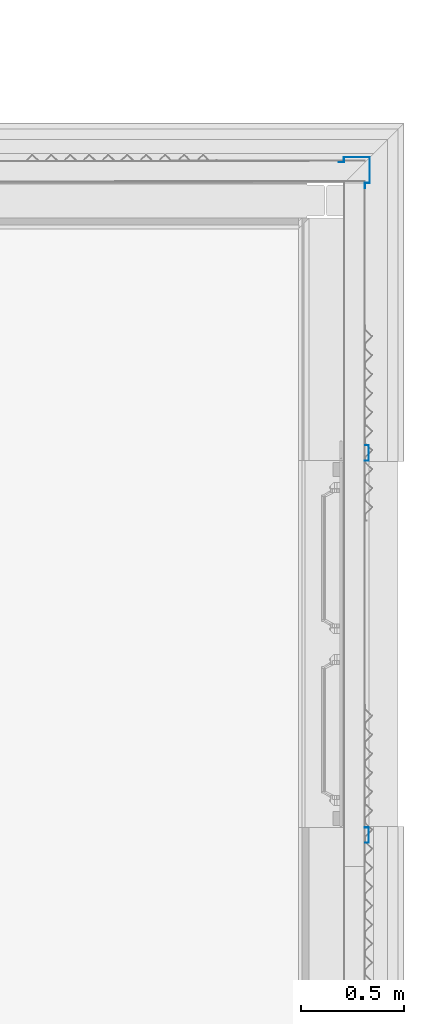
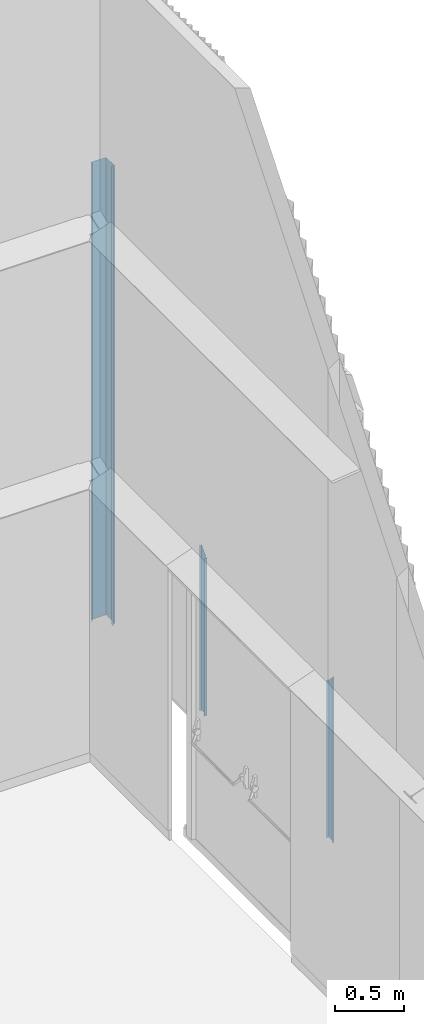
# One storey, part 36 of 338: 3 columns.
"""IFC2X3 building model written with IfcOpenShell, lengths in millimetres."""

from ifc_helpers import new_model, entity, si_unit, converted_unit, derived_unit, money_unit, direction, frame, origin_with_axes, place, context, subcontext, project, spatial, faceted_brep, material, type_object, element, save


model = new_model("IFC2X3")

# Units and contexts
model_context = context("Model", 3, precision=0.01, world=origin_with_axes(), true_north=direction((0.0, 1.0)))
plan_context = context("Plan", 3, precision=0.01, world=origin_with_axes(), true_north=direction((0.0, 1.0)))
body_context = subcontext(model_context, "Body", "Model", "MODEL_VIEW")
ifc_project = project(units=[si_unit("LENGTHUNIT", "METRE", prefix="MILLI"), si_unit("AREAUNIT", "SQUARE_METRE"), si_unit("VOLUMEUNIT", "CUBIC_METRE"), converted_unit("PLANEANGLEUNIT", "DEGREE", entity("IfcPlaneAngleMeasure", 0.0174532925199), si_unit("PLANEANGLEUNIT", "RADIAN"), dimensions=[0, 0, 0, 0, 0, 0, 0]), money_unit("EUR"), converted_unit("TIMEUNIT", "Year", entity("IfcTimeMeasure", 31556926.0), si_unit("TIMEUNIT", "SECOND"), dimensions=[0, 0, 1, 0, 0, 0, 0]), si_unit("MASSUNIT", "GRAM", prefix="KILO"), si_unit("THERMODYNAMICTEMPERATUREUNIT", "DEGREE_CELSIUS"), si_unit("LUMINOUSINTENSITYUNIT", "LUMEN"), si_unit("ENERGYUNIT", "JOULE", prefix="MEGA"), derived_unit("THERMALCONDUCTANCEUNIT", [(si_unit("POWERUNIT", "WATT"), 1), (si_unit("LENGTHUNIT", "METRE"), -1), (si_unit("THERMODYNAMICTEMPERATUREUNIT", "KELVIN"), -1)]), derived_unit("SPECIFICHEATCAPACITYUNIT", [(si_unit("ENERGYUNIT", "JOULE"), 1), (si_unit("MASSUNIT", "GRAM", prefix="KILO"), -1), (si_unit("THERMODYNAMICTEMPERATUREUNIT", "KELVIN"), -1)]), derived_unit("MASSDENSITYUNIT", [(si_unit("MASSUNIT", "GRAM", prefix="KILO"), 1), (si_unit("VOLUMEUNIT", "CUBIC_METRE"), -1)])], contexts=[model_context, plan_context])

# Site, building, storey
site_placement = place(None, origin_with_axes())
site = spatial("IfcSite", under=ifc_project, at=site_placement, Name="Fortuinstraat Woensdrecht", CompositionType="ELEMENT")
building_placement = place(site_placement, origin_with_axes())
building = spatial("IfcBuilding", under=site, at=building_placement, Name="IKC Fortuna", CompositionType="ELEMENT")
storey_placement = place(building_placement, origin_with_axes())
storey = spatial("IfcBuildingStorey", under=building, at=storey_placement, Name="00 begane grond", CompositionType="ELEMENT", Elevation=0.0)

# Columns
ifc_material = material(Name="Metaal - Aluminium")
column_type_1 = type_object("IfcColumnType", Name="41 Zetwerk SW hoek 151 x 151", PredefinedType="COLUMN")
column_1_placement = place(storey_placement, frame((59533.4270571, 35596.296676, 999.0), z_axis=(0.0, 0.0, 1.0), x_axis=(0.0, 1.0, 0.0)))
element("IfcColumn", 1, at=column_1_placement, inside=storey, type_object=column_type_1, material=ifc_material, Name="28_Kolom_omtimmering kolom", ObjectType="COLUMN", context=body_context, shape_type="Brep", body=[
    faceted_brep([(25.0, 101.0, 4060.85690076), (6.54751961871, 101.0, 4060.85690076), (6.54900127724, 100.0, 4060.85690076), (24.0, 100.0, 4060.85690076), (24.0, -24.0, 4060.85690076), (-100.0, -24.0, 4060.85690076), (-100.0, 0.0, 4060.85690076), (-126.0, 0.0, 4060.85690076), (-126.0, -0.999999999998, 4060.85690076), (-101.0, -0.999999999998, 4060.85690076), (-101.0, -25.0, 4060.85690076), (25.0, -25.0, 4060.85690076), (0.999999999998, 101.0, 1.00000000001), (6.54751961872, 101.0, 1.00000000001), (25.0, 101.0, 0.0), (0.999999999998, 101.0, 0.0), (6.54900127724, 100.0, 1.00000000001), (0.0, 100.0, 1.00000000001), (0.0, 100.0, 0.0), (24.0, 100.0, 0.0), (24.0, -24.0, 0.0), (-100.0, -24.0, 0.0), (-100.0, 0.0, 0.0), (-126.0, 0.0, 0.0), (-126.0, -0.999999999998, 0.0), (-101.0, -0.999999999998, 0.0), (-101.0, -25.0, 0.0), (25.0, -25.0, 0.0), (1.20792265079e-10, 126.150271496, 1.00000000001), (0.999999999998, 126.150271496, 1.00000000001), (1.20792265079e-10, 126.150271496, 0.0), (0.999999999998, 126.150271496, 0.0)], [[[0, 1, 2, 3, 4, 5, 6, 7, 8, 9, 10, 11]], [[12, 13, 1, 0, 14, 15]], [[13, 16, 2, 1]], [[2, 16, 17, 18, 19, 3]], [[4, 3, 19, 20]], [[5, 4, 20, 21]], [[6, 5, 21, 22]], [[7, 6, 22, 23]], [[8, 7, 23, 24]], [[9, 8, 24, 25]], [[10, 9, 25, 26]], [[11, 10, 26, 27]], [[0, 11, 27, 14]], [[28, 17, 16, 13, 12, 29]], [[25, 24, 23, 22, 21, 20, 19, 18, 30, 31, 15, 14, 27, 26]], [[31, 29, 12, 15]], [[18, 17, 28, 30]], [[30, 28, 29, 31]]]),
])
column_type_2 = type_object("IfcColumnType", Name="41 Zetwerk SW hd 77 x 94", PredefinedType="COLUMN")
column_2_placement = place(storey_placement, frame((59519.4270568, 34140.3126656, 1000.0), z_axis=(0.0, 0.0, 1.0), x_axis=(0.0, 1.0, 0.0)))
element("IfcColumn", 2, at=column_2_placement, inside=storey, type_object=column_type_2, material=ifc_material, Name="28_Kolom_omtimmering kolom", ObjectType="COLUMN", context=body_context, shape_type="Brep", body=[
    faceted_brep([(10.0, -33.0, 0.0), (10.0, -13.0000002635, 0.0), (10.0, -13.0000002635, 1397.0), (10.0, -33.0, 1397.0), (9.0, -34.0, 0.0), (9.0, -13.0000002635, 0.0), (83.0, -33.0, 0.0), (83.0, -15.0, 0.0), (84.0, -15.0, 0.0), (84.0, -34.0, 0.0), (9.0, -13.0000002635, 1396.0), (9.0, -34.0, 1396.0), (84.0, -34.0, 1471.0), (84.0, -15.0, 1471.0), (83.0, -15.0, 1470.0), (83.0, -33.0, 1470.0)], [[[0, 1, 2, 3]], [[4, 5, 1, 0, 6, 7, 8, 9]], [[5, 10, 2, 1]], [[3, 2, 10, 11, 12, 13, 14, 15]], [[3, 15, 6, 0]], [[11, 10, 5, 4]], [[15, 14, 7, 6]], [[14, 13, 8, 7]], [[13, 12, 9, 8]], [[12, 11, 4, 9]]]),
])
column_3_placement = place(storey_placement, frame((59519.4270568, 32380.3126656, 1000.0), z_axis=(0.0, 0.0, 1.0), x_axis=(0.0, 1.0, 0.0)))
element("IfcColumn", 3, at=column_3_placement, inside=storey, type_object=column_type_2, material=ifc_material, Name="28_Kolom_omtimmering kolom", ObjectType="COLUMN", context=body_context, shape_type="Brep", body=[
    faceted_brep([(-9.0, -34.0, 0.0), (-9.0, -13.0000002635, 0.0), (-9.0, -13.0000002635, 1396.0), (-9.0, -34.0, 1396.0), (-10.0, -33.0, 0.0), (-10.0, -13.0000002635, 0.0), (-84.0, -34.0, 0.0), (-84.0, -15.0, 0.0), (-83.0, -15.0, 0.0), (-83.0, -33.0, 0.0), (-10.0, -13.0000002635, 1397.0), (-10.0, -33.0, 1397.0), (-83.0, -33.0, 1470.0), (-83.0, -15.0, 1470.0), (-84.0, -15.0, 1471.0), (-84.0, -34.0, 1471.0)], [[[0, 1, 2, 3]], [[4, 5, 1, 0, 6, 7, 8, 9]], [[5, 10, 2, 1]], [[3, 2, 10, 11, 12, 13, 14, 15]], [[3, 15, 6, 0]], [[11, 10, 5, 4]], [[15, 14, 7, 6]], [[14, 13, 8, 7]], [[13, 12, 9, 8]], [[12, 11, 4, 9]]]),
])

save(model, "model.ifc")
